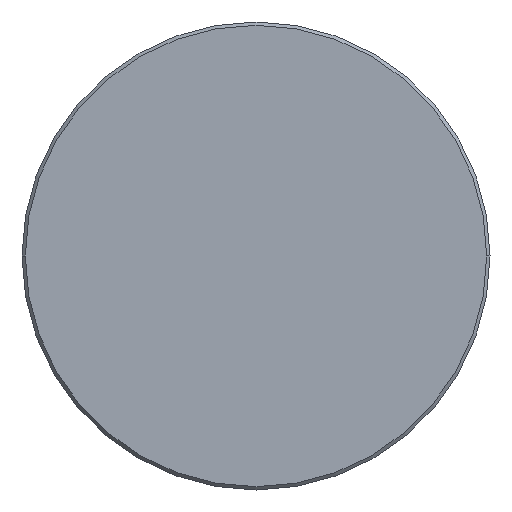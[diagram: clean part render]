
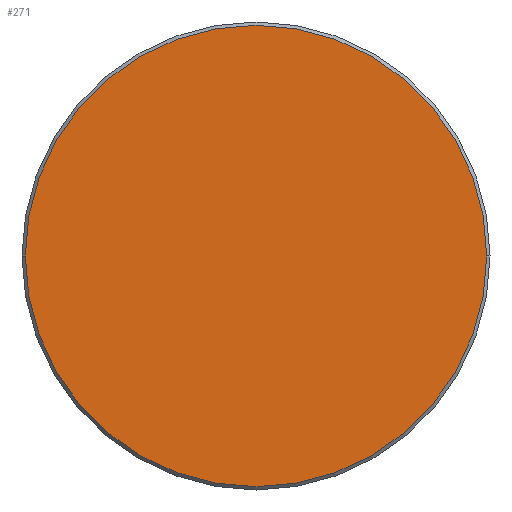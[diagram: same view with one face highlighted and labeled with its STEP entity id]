
A CAD part, left-side view. The second image highlights one B-rep face of the part: STEP entity #271.
In plain terms, the highlighted planar face has unit normal (-1, 0, 0).
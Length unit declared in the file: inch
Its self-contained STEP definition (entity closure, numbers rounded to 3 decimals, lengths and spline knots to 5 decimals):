
#31 = EDGE_CURVE ( 'NONE', #190, #139, #111, .T. ) ;
#36 = CARTESIAN_POINT ( 'NONE',  ( 0., -0.27725, 0. ) ) ;
#67 = FACE_OUTER_BOUND ( 'NONE', #261, .T. ) ;
#72 = DIRECTION ( 'NONE',  ( 0., -1., 0. ) ) ;
#83 = ORIENTED_EDGE ( 'NONE', *, *, #262, .T. ) ;
#99 = CARTESIAN_POINT ( 'NONE',  ( 0., 0., 0. ) ) ;
#111 = CIRCLE ( 'NONE', #250, 0.27725 ) ;
#139 = VERTEX_POINT ( 'NONE', #294 ) ;
#142 = CIRCLE ( 'NONE', #211, 0.27725 ) ;
#145 = AXIS2_PLACEMENT_3D ( 'NONE', #327, #173, #362 ) ;
#173 = DIRECTION ( 'NONE',  ( -1., 0., 0. ) ) ;
#190 = VERTEX_POINT ( 'NONE', #36 ) ;
#211 = AXIS2_PLACEMENT_3D ( 'NONE', #213, #272, #331 ) ;
#213 = CARTESIAN_POINT ( 'NONE',  ( 0., 0., 0. ) ) ;
#250 = AXIS2_PLACEMENT_3D ( 'NONE', #99, #346, #72 ) ;
#261 = EDGE_LOOP ( 'NONE', ( #83, #285 ) ) ;
#262 = EDGE_CURVE ( 'NONE', #139, #190, #142, .T. ) ;
#271 = ADVANCED_FACE ( 'NONE', ( #67 ), #325, .T. ) ;
#272 = DIRECTION ( 'NONE',  ( -1., 0., 0. ) ) ;
#285 = ORIENTED_EDGE ( 'NONE', *, *, #31, .T. ) ;
#294 = CARTESIAN_POINT ( 'NONE',  ( 0., 0.27725, 0. ) ) ;
#325 = PLANE ( 'NONE',  #145 ) ;
#327 = CARTESIAN_POINT ( 'NONE',  ( 0., 0., 0. ) ) ;
#331 = DIRECTION ( 'NONE',  ( 0., -1., 0. ) ) ;
#346 = DIRECTION ( 'NONE',  ( -1., 0., 0. ) ) ;
#362 = DIRECTION ( 'NONE',  ( 0., -1., 0. ) ) ;
